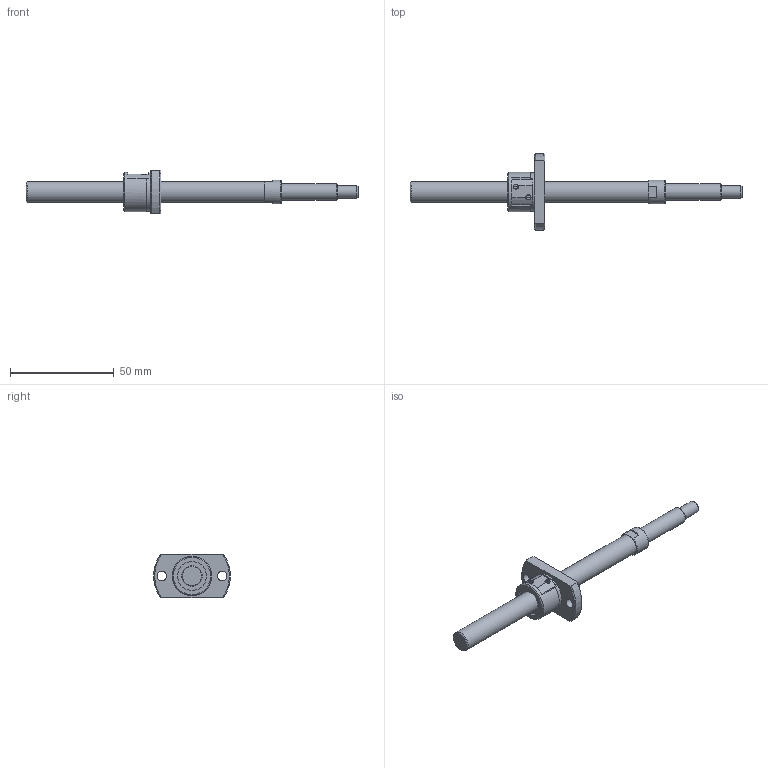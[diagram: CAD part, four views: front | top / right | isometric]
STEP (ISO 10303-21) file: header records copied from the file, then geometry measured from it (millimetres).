
FILE_DESCRIPTION( ( 'STEP AP214' ), '1' );
FILE_NAME( 'p:/temp/worker_8/1096_1344/app_77_12015063014092247519028260eae72_00_00_00_000/STEP/SG1001-112R160C3A1X_47__2_14.stp', ' ', ( ' ' ), ( ' ' ), 'PSStep 15.0.47', 'PARTsolutions', ' ' );
FILE_SCHEMA( ( 'AUTOMOTIVE_DESIGN { 1 0 10303 214 1 1 1 1 }' ) );
Length unit declared in the file: millimetre
Products named in the file (3): SG1001-112R160C3A1X(47); _SG1001-112R160C3A_shaft; _SG1001_nut
Assembly tree (2 placements, depth 2):
  SG1001-112R160C3A1X(47)
    _SG1001-112R160C3A_shaft
    _SG1001_nut
Bounding box: 160 x 36.86 x 21 mm (x, y, z)
Volume: 16965.6 mm3; surface area: 8231.2 mm2
Topology: 2 solids, 2 shells, 74 faces, 183 edges, 120 vertices
Faces by surface type: plane 35, cylinder 25, cone 13, torus 1
Full cylindrical faces by diameter (mm): 4.5 x2, 6 x1, 8 x1, 10 x2, 11.5 x1, 14 x2, 18.5 x1, 19 x1
Entity records: 2710 total; most frequent: CARTESIAN_POINT 421, DIRECTION 354, ORIENTED_EDGE 304, EDGE_CURVE 152, AXIS2_PLACEMENT_3D 147, VERTEX_POINT 110, EDGE_LOOP 108, FACE_OUTER_BOUND 86
